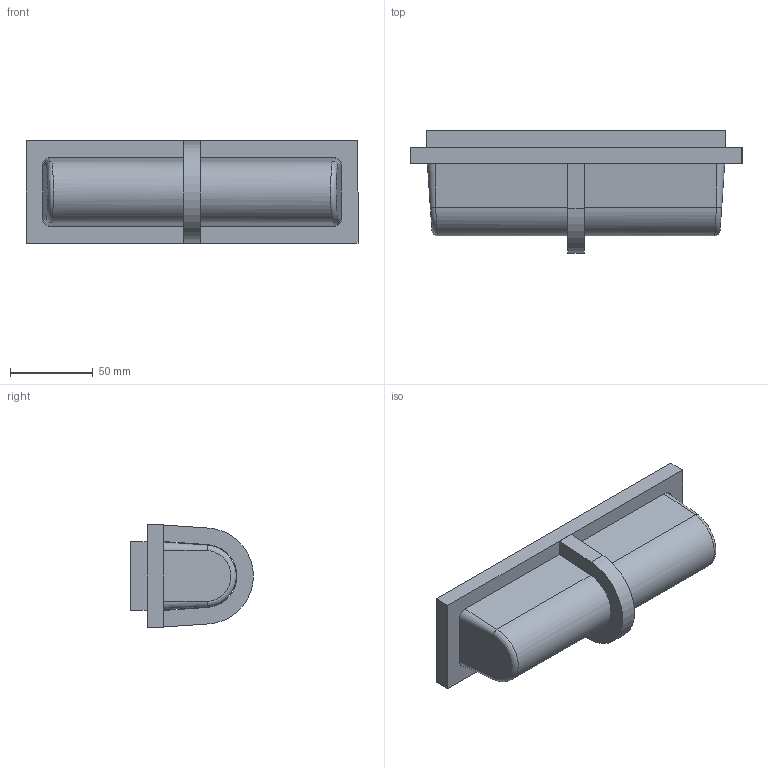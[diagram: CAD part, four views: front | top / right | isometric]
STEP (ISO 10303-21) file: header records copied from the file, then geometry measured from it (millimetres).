
FILE_DESCRIPTION (( 'STEP AP203' ), '1' );
FILE_NAME ('Ublo Wall.STEP', '2024-09-20T10:01:38', ( '' ), ( '' ), 'SwSTEP 2.0', 'SolidWorks 2024', '' );
FILE_SCHEMA (( 'CONFIG_CONTROL_DESIGN' ));
Length unit declared in the file: millimetre
Products named in the file (5): ATC-A05-W101-R01_Default<A macchina>; Ublo Wall; ATC-A05-W102-R02; ATC-A05-W100-R02 - Sito; Passacavo Steab 6307-x-x
Assembly tree (4 placements, depth 2):
  Ublo Wall
    Passacavo Steab 6307-x-x
    ATC-A05-W100-R02 - Sito
    ATC-A05-W101-R01_Default<A macchina>
    ATC-A05-W102-R02
Bounding box: 200 x 74.04 x 61.5 mm (x, y, z)
Volume: 262087.8 mm3; surface area: 88545.1 mm2
Topology: 4 solids, 4 shells, 427 faces, 1000 edges, 596 vertices
Faces by surface type: cylinder 167, plane 128, bspline 98, cone 30, torus 4
Entity records: 20675 total; most frequent: CARTESIAN_POINT 11109, ORIENTED_EDGE 1992, DIRECTION 1762, EDGE_CURVE 996, AXIS2_PLACEMENT_3D 633, VERTEX_POINT 596, VECTOR 496, LINE 496
